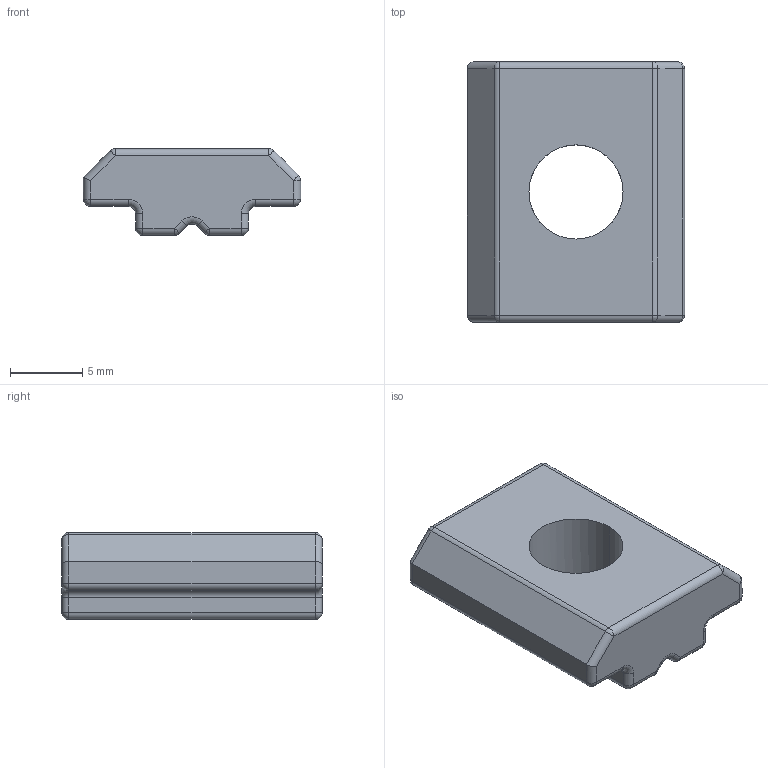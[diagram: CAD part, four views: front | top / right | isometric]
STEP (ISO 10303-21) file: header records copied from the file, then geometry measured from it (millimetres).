
FILE_DESCRIPTION (( 'STEP AP203' ), '1' );
FILE_NAME ('5068.STEP', '2016-04-22T16:25:02', ( '' ), ( '' ), 'SwSTEP 2.0', 'SolidWorks 2014', '' );
FILE_SCHEMA (( 'CONFIG_CONTROL_DESIGN' ));
Length unit declared in the file: millimetre
Products named in the file (1): 5068
Bounding box: 15 x 18 x 6 mm (x, y, z)
Volume: 1072.3 mm3; surface area: 874.5 mm2
Topology: 1 solids, 1 shells, 84 faces, 199 edges, 98 vertices
Faces by surface type: cylinder 43, sphere 18, plane 17, torus 6
Entity records: 2316 total; most frequent: DIRECTION 423, CARTESIAN_POINT 404, ORIENTED_EDGE 362, EDGE_CURVE 181, AXIS2_PLACEMENT_3D 169, VERTEX_POINT 98, VECTOR 85, LINE 85
